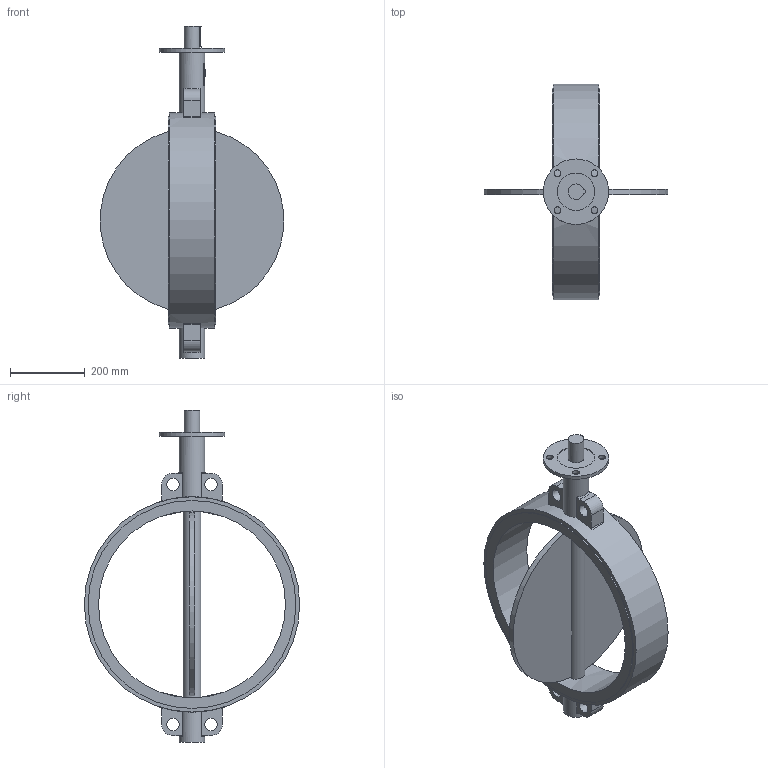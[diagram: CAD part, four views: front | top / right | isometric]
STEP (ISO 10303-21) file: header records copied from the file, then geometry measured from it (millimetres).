
FILE_DESCRIPTION(('STEP AP203'), '1');
FILE_NAME('青蜮铕 017W.YS_DN500_PN16', '', ('UNSPECIFIED'), ('UNSPECIFIED'), 'ASCON STEP Converter 1.6', 'ASCON Math Kernel', '');
FILE_SCHEMA(('CONFIG_CONTROL_DESIGN'));
Length unit declared in the file: millimetre
Bounding box: 489.78 x 576 x 888 mm (x, y, z)
Volume: 13057564.2 mm3; surface area: 1117865.3 mm2
Topology: 1 solids, 1 shells, 89 faces, 220 edges, 146 vertices
Faces by surface type: plane 48, cylinder 37, torus 4
Full cylindrical faces by diameter (mm): 18 x4, 33 x4, 41.5 x1, 48 x1, 68 x2, 100 x1, 175 x1, 500 x1, 556 x2, 576 x1
Entity records: 4637 total; most frequent: CARTESIAN_POINT 1745, DIRECTION 452, ORIENTED_EDGE 404, EDGE_CURVE 202, AXIS2_PLACEMENT_3D 180, VERTEX_POINT 146, EDGE_LOOP 140, FACE_BOUND 107
